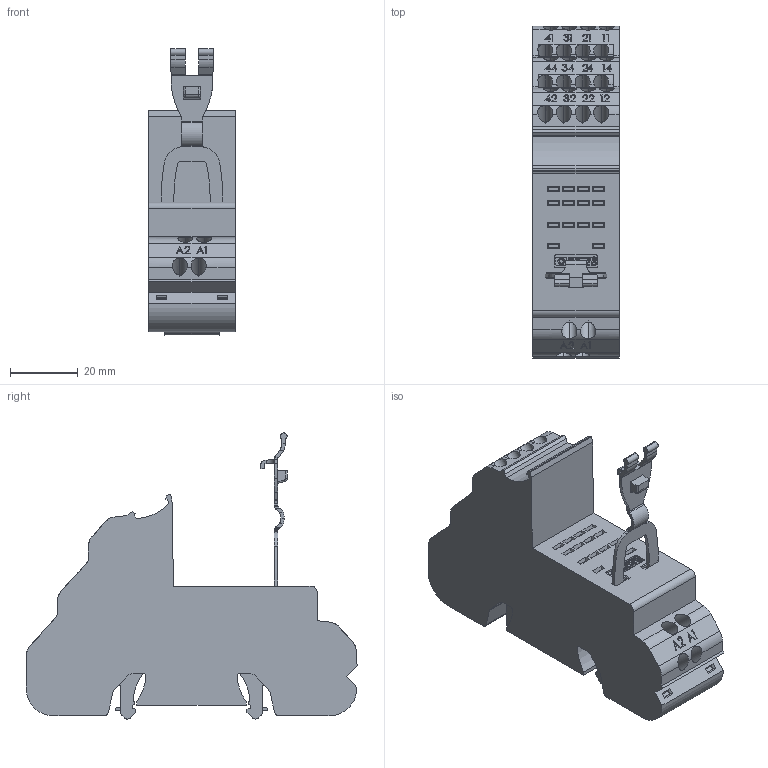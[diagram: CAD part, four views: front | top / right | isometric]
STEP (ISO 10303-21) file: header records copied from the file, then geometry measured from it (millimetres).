
FILE_DESCRIPTION (( 'STEP AP214' ), '1' );
FILE_NAME ('S9-PIR.STEP', '2024-04-09T10:42:16', ( '' ), ( '' ), 'SwSTEP 2.0', 'SolidWorks 2022', '' );
FILE_SCHEMA (( 'AUTOMOTIVE_DESIGN' ));
Length unit declared in the file: millimetre
Products named in the file (1): S9-PIR
Bounding box: 25.5 x 97.75 x 84.25 mm (x, y, z)
Volume: 89054.2 mm3; surface area: 23470.8 mm2
Topology: 1 solids, 1 shells, 976 faces, 2661 edges, 1762 vertices
Faces by surface type: plane 640, bspline 197, cylinder 139
Entity records: 47867 total; most frequent: CARTESIAN_POINT 13907, ORIENTED_EDGE 5322, DIRECTION 3891, EDGE_CURVE 2661, VECTOR 1927, LINE 1927, VERTEX_POINT 1762, EDGE_LOOP 1053
